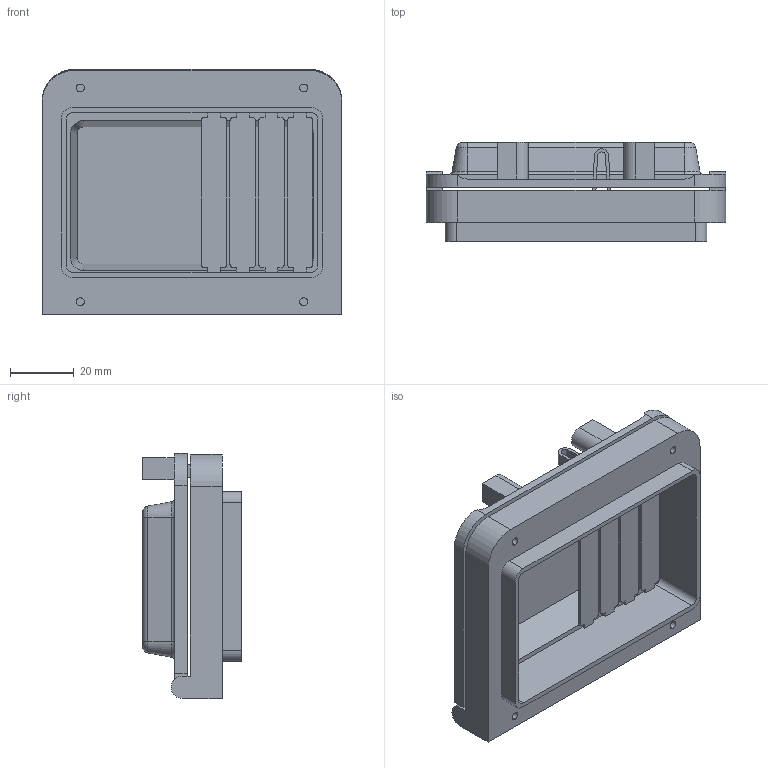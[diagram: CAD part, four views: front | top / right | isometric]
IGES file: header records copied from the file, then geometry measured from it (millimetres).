
Start section: SolidWorks IGES file using analytic representation for surfaces
Global section: file name: G:\3DRAW\EK\Aemsa luukut\L04.IGS; native system: SolidWorks 2008; preprocessor: SolidWorks 2008; author: KennethW; date: 090812.105845; units: millimetre
Bounding box: 94 x 31 x 76.8 mm (x, y, z)
Volume: 61987.8 mm3; surface area: 39610 mm2
Topology: 1 solids, 1 shells, 180 faces, 500 edges, 328 vertices
Faces by surface type: plane 106, revolution 74
